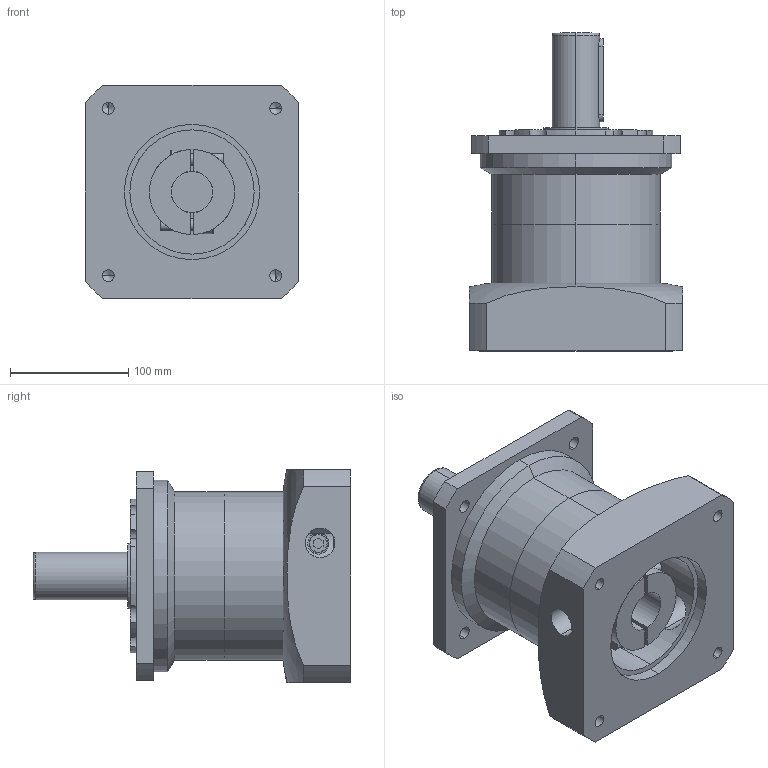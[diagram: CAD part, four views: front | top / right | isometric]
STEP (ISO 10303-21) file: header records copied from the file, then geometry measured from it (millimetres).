
FILE_DESCRIPTION (( 'STEP AP203' ), '1' );
FILE_NAME ('WPF142ﾐﾂ-L1(3KW)ﾍ簟ﾎﾍｼ(35-81-114.3-200-M12).STEP', '2018-01-19T07:37:55', ( 'User' ), ( 'China' ), 'SwSTEP 2.0', 'SolidWorks 2013', '' );
FILE_SCHEMA (( 'CONFIG_CONTROL_DESIGN' ));
Length unit declared in the file: millimetre
Products named in the file (1): WPF142ﾐﾂ-L1(3KW)ﾍ簟ﾎﾍｼ(35-81-114.3-200-M12)
Bounding box: 180 x 268.5 x 180 mm (x, y, z)
Volume: 3685568.1 mm3; surface area: 325980.3 mm2
Topology: 5 solids, 5 shells, 285 faces, 684 edges, 435 vertices
Faces by surface type: plane 131, cylinder 114, torus 24, cone 16
Entity records: 9075 total; most frequent: CARTESIAN_POINT 2146, DIRECTION 1520, ORIENTED_EDGE 1348, EDGE_CURVE 674, AXIS2_PLACEMENT_3D 579, VERTEX_POINT 435, LINE 362, VECTOR 362
